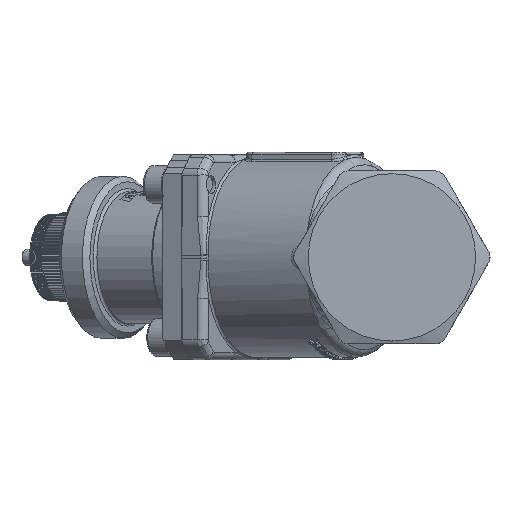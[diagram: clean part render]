
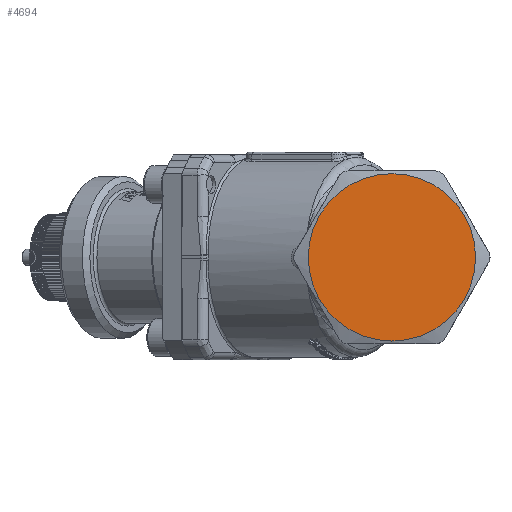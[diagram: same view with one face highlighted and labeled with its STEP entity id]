
A CAD part, left-side view. The second image highlights one B-rep face of the part: STEP entity #4694.
In plain terms, the highlighted planar face has unit normal (-1, 0, 0).
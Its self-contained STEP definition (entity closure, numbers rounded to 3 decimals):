
#4678=CARTESIAN_POINT('',(-30.0,40.239,-19.123));
#4679=DIRECTION('',(1.0,0.0,0.0));
#4680=DIRECTION('',(0.0,0.0,-1.0));
#4681=AXIS2_PLACEMENT_3D('',#4678,#4679,#4680);
#4682=PLANE('',#4681);
#4683=CARTESIAN_POINT('',(-30.0,15.5,0.0));
#4684=VERTEX_POINT('',#4683);
#4685=CARTESIAN_POINT('',(-30.0,0.0,0.0));
#4686=DIRECTION('',(-1.0,0.0,0.0));
#4687=DIRECTION('',(0.0,1.0,0.0));
#4688=AXIS2_PLACEMENT_3D('',#4685,#4686,#4687);
#4689=CIRCLE('',#4688,15.5);
#4690=EDGE_CURVE('',#4684,#4684,#4689,.T.);
#4691=ORIENTED_EDGE('',*,*,#4690,.T.);
#4692=EDGE_LOOP('',(#4691));
#4693=FACE_OUTER_BOUND('',#4692,.T.);
#4694=ADVANCED_FACE('',(#4693),#4682,.F.);
